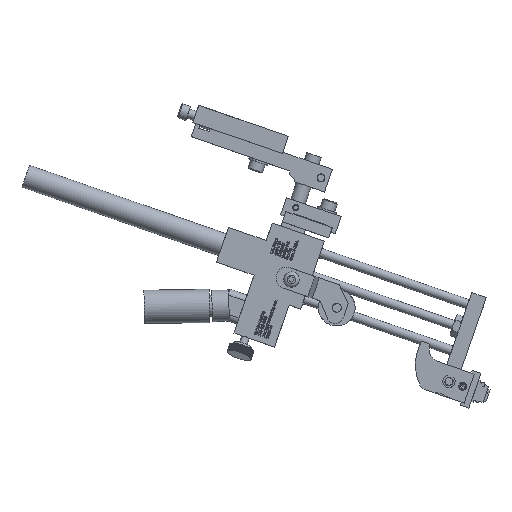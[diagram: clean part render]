
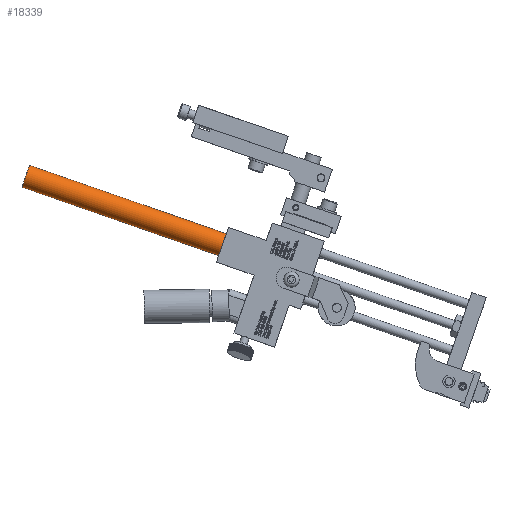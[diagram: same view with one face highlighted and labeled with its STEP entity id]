
A CAD part, top view. The second image highlights one B-rep face of the part: STEP entity #18339.
In plain terms, the highlighted cylindrical face has radius 5.969 mm (diameter 11.938 mm), a full revolution.
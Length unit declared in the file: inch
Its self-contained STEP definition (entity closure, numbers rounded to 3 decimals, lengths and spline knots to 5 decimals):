
#18312=CARTESIAN_POINT('',(-1.32752,1.20599,0.375));
#18313=DIRECTION('',(-0.944,0.329,0.));
#18314=DIRECTION('',(0.0,0.0,-1.0));
#18315=AXIS2_PLACEMENT_3D('',#18312,#18313,#18314);
#18316=CYLINDRICAL_SURFACE('',#18315,0.235);
#18317=CARTESIAN_POINT('',(-5.34142,2.6028,0.61));
#18318=VERTEX_POINT('',#18317);
#18319=CARTESIAN_POINT('',(-5.34142,2.6028,0.375));
#18320=DIRECTION('',(0.944,-0.329,0.0));
#18321=DIRECTION('',(0.0,0.0,-1.0));
#18322=AXIS2_PLACEMENT_3D('',#18319,#18320,#18321);
#18323=CIRCLE('',#18322,0.235);
#18324=EDGE_CURVE('',#18318,#18318,#18323,.T.);
#18325=ORIENTED_EDGE('',*,*,#18324,.T.);
#18326=EDGE_LOOP('',(#18325));
#18327=FACE_OUTER_BOUND('',#18326,.T.);
#18328=CARTESIAN_POINT('',(-1.32752,1.20599,0.61));
#18329=VERTEX_POINT('',#18328);
#18330=CARTESIAN_POINT('',(-1.32752,1.20599,0.375));
#18331=DIRECTION('',(0.944,-0.329,0.0));
#18332=DIRECTION('',(0.0,0.0,-1.0));
#18333=AXIS2_PLACEMENT_3D('',#18330,#18331,#18332);
#18334=CIRCLE('',#18333,0.235);
#18335=EDGE_CURVE('',#18329,#18329,#18334,.T.);
#18336=ORIENTED_EDGE('',*,*,#18335,.F.);
#18337=EDGE_LOOP('',(#18336));
#18338=FACE_BOUND('',#18337,.T.);
#18339=ADVANCED_FACE('',(#18327,#18338),#18316,.T.);
